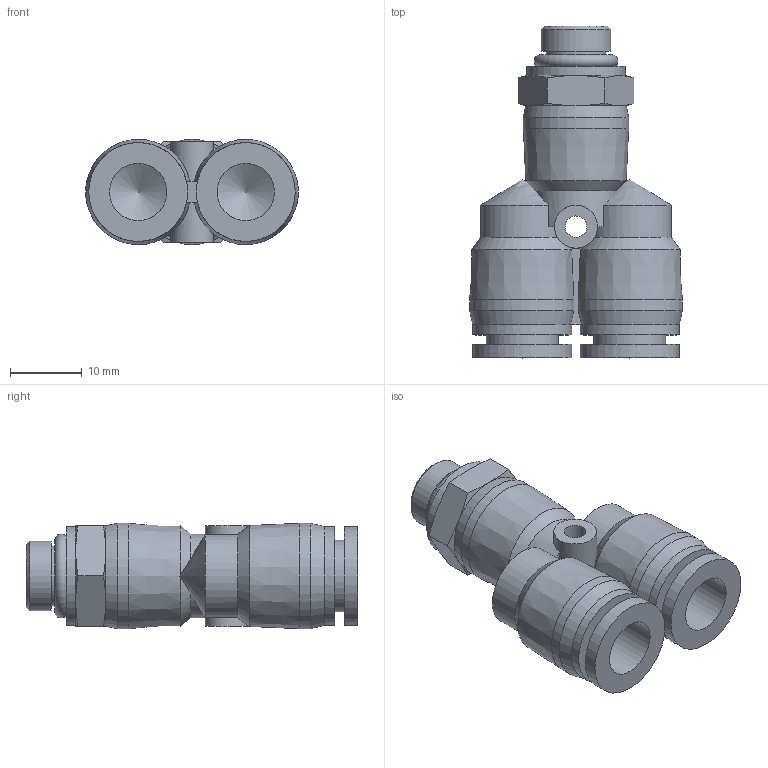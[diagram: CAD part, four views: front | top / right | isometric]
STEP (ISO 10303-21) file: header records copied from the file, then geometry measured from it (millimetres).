
FILE_DESCRIPTION(/* description */ (''),/* implementation_level */ '2;1');
FILE_NAME(/* name */ 'S:\_Tecnico\ArchivioUT\_Disegni3D ingombri\DISEGNI 3D per ingombri\RP\RP 74\RP741808.stp',/* time_stamp */ '2019-09-05T16:14:51+02:00',/* author */ ('ufficiotecnico3'),/* organization */ (''),/* preprocessor_version */ 'ST-DEVELOPER v18',/* originating_system */ 'Autodesk Inventor 2020',/* authorisation */ '');
FILE_SCHEMA (('AUTOMOTIVE_DESIGN { 1 0 10303 214 3 1 1 }'));
Length unit declared in the file: millimetre
Products named in the file (1): RP741808
Bounding box: 29.7 x 46.3 x 14.7 mm (x, y, z)
Volume: 7006.4 mm3; surface area: 5594.5 mm2
Topology: 1 solids, 2 shells, 79 faces, 224 edges, 149 vertices
Faces by surface type: cone 26, cylinder 26, plane 25, torus 2
Full cylindrical faces by diameter (mm): 2.895 x2, 3 x1, 6 x3, 8 x2, 8.3 x2, 9.728 x1, 10 x2, 13.8 x5, 14.7 x1
Entity records: 2916 total; most frequent: CARTESIAN_POINT 870, ORIENTED_EDGE 440, DIRECTION 417, EDGE_CURVE 220, AXIS2_PLACEMENT_3D 184, VERTEX_POINT 149, CIRCLE 102, EDGE_LOOP 91
